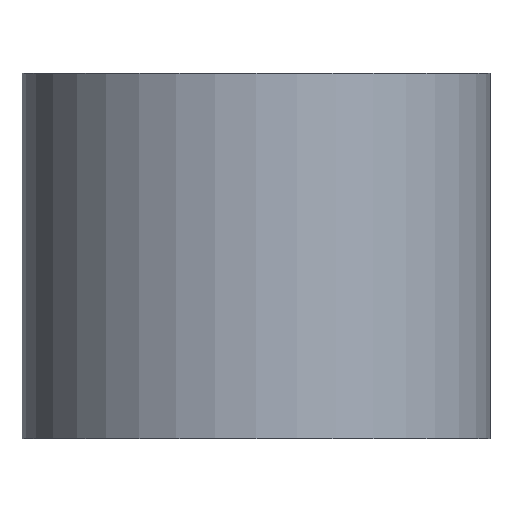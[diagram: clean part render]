
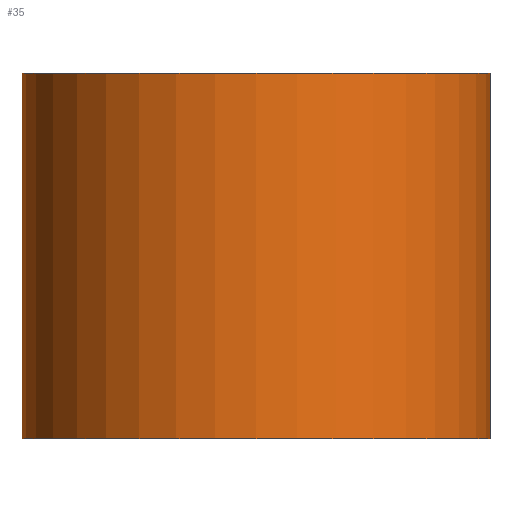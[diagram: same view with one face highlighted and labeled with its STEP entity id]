
A CAD part, front view. The second image highlights one B-rep face of the part: STEP entity #35.
In plain terms, the highlighted cylindrical face has radius 3.2 mm (diameter 6.4 mm), a full revolution.
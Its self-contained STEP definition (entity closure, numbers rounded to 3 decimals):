
#35 = ADVANCED_FACE('',(#36),#49,.T.);
#36 = FACE_BOUND('',#37,.T.);
#37 = EDGE_LOOP('',(#38,#72,#95,#122));
#38 = ORIENTED_EDGE('',*,*,#39,.F.);
#39 = EDGE_CURVE('',#40,#40,#42,.T.);
#40 = VERTEX_POINT('',#41);
#41 = CARTESIAN_POINT('',(3.2,0.,2.5));
#42 = SURFACE_CURVE('',#43,(#48,#60),.PCURVE_S1.);
#43 = CIRCLE('',#44,3.2);
#44 = AXIS2_PLACEMENT_3D('',#45,#46,#47);
#45 = CARTESIAN_POINT('',(0.,0.,2.5));
#46 = DIRECTION('',(0.,0.,1.));
#47 = DIRECTION('',(1.,0.,-0.));
#48 = PCURVE('',#49,#54);
#49 = CYLINDRICAL_SURFACE('',#50,3.2);
#50 = AXIS2_PLACEMENT_3D('',#51,#52,#53);
#51 = CARTESIAN_POINT('',(0.,0.,-2.5));
#52 = DIRECTION('',(0.,0.,1.));
#53 = DIRECTION('',(1.,0.,-0.));
#54 = DEFINITIONAL_REPRESENTATION('',(#55),#59);
#55 = LINE('',#56,#57);
#56 = CARTESIAN_POINT('',(0.,5.));
#57 = VECTOR('',#58,1.);
#58 = DIRECTION('',(1.,0.));
#59 = ( GEOMETRIC_REPRESENTATION_CONTEXT(2) 
PARAMETRIC_REPRESENTATION_CONTEXT() REPRESENTATION_CONTEXT('2D SPACE',''
  ) );
#60 = PCURVE('',#61,#66);
#61 = PLANE('',#62);
#62 = AXIS2_PLACEMENT_3D('',#63,#64,#65);
#63 = CARTESIAN_POINT('',(0.,0.,2.5));
#64 = DIRECTION('',(0.,0.,1.));
#65 = DIRECTION('',(1.,0.,-0.));
#66 = DEFINITIONAL_REPRESENTATION('',(#67),#71);
#67 = CIRCLE('',#68,3.2);
#68 = AXIS2_PLACEMENT_2D('',#69,#70);
#69 = CARTESIAN_POINT('',(0.,0.));
#70 = DIRECTION('',(1.,0.));
#71 = ( GEOMETRIC_REPRESENTATION_CONTEXT(2) 
PARAMETRIC_REPRESENTATION_CONTEXT() REPRESENTATION_CONTEXT('2D SPACE',''
  ) );
#72 = ORIENTED_EDGE('',*,*,#73,.F.);
#73 = EDGE_CURVE('',#74,#40,#76,.T.);
#74 = VERTEX_POINT('',#75);
#75 = CARTESIAN_POINT('',(3.2,0.,-2.5));
#76 = SEAM_CURVE('',#77,(#81,#88),.PCURVE_S1.);
#77 = LINE('',#78,#79);
#78 = CARTESIAN_POINT('',(3.2,0.,-2.5));
#79 = VECTOR('',#80,1.);
#80 = DIRECTION('',(0.,0.,1.));
#81 = PCURVE('',#49,#82);
#82 = DEFINITIONAL_REPRESENTATION('',(#83),#87);
#83 = LINE('',#84,#85);
#84 = CARTESIAN_POINT('',(6.283,-0.));
#85 = VECTOR('',#86,1.);
#86 = DIRECTION('',(0.,1.));
#87 = ( GEOMETRIC_REPRESENTATION_CONTEXT(2) 
PARAMETRIC_REPRESENTATION_CONTEXT() REPRESENTATION_CONTEXT('2D SPACE',''
  ) );
#88 = PCURVE('',#49,#89);
#89 = DEFINITIONAL_REPRESENTATION('',(#90),#94);
#90 = LINE('',#91,#92);
#91 = CARTESIAN_POINT('',(0.,-0.));
#92 = VECTOR('',#93,1.);
#93 = DIRECTION('',(0.,1.));
#94 = ( GEOMETRIC_REPRESENTATION_CONTEXT(2) 
PARAMETRIC_REPRESENTATION_CONTEXT() REPRESENTATION_CONTEXT('2D SPACE',''
  ) );
#95 = ORIENTED_EDGE('',*,*,#96,.T.);
#96 = EDGE_CURVE('',#74,#74,#97,.T.);
#97 = SURFACE_CURVE('',#98,(#103,#110),.PCURVE_S1.);
#98 = CIRCLE('',#99,3.2);
#99 = AXIS2_PLACEMENT_3D('',#100,#101,#102);
#100 = CARTESIAN_POINT('',(0.,0.,-2.5));
#101 = DIRECTION('',(0.,0.,1.));
#102 = DIRECTION('',(1.,0.,-0.));
#103 = PCURVE('',#49,#104);
#104 = DEFINITIONAL_REPRESENTATION('',(#105),#109);
#105 = LINE('',#106,#107);
#106 = CARTESIAN_POINT('',(0.,0.));
#107 = VECTOR('',#108,1.);
#108 = DIRECTION('',(1.,0.));
#109 = ( GEOMETRIC_REPRESENTATION_CONTEXT(2) 
PARAMETRIC_REPRESENTATION_CONTEXT() REPRESENTATION_CONTEXT('2D SPACE',''
  ) );
#110 = PCURVE('',#111,#116);
#111 = PLANE('',#112);
#112 = AXIS2_PLACEMENT_3D('',#113,#114,#115);
#113 = CARTESIAN_POINT('',(0.,0.,-2.5));
#114 = DIRECTION('',(0.,0.,1.));
#115 = DIRECTION('',(1.,0.,-0.));
#116 = DEFINITIONAL_REPRESENTATION('',(#117),#121);
#117 = CIRCLE('',#118,3.2);
#118 = AXIS2_PLACEMENT_2D('',#119,#120);
#119 = CARTESIAN_POINT('',(0.,0.));
#120 = DIRECTION('',(1.,0.));
#121 = ( GEOMETRIC_REPRESENTATION_CONTEXT(2) 
PARAMETRIC_REPRESENTATION_CONTEXT() REPRESENTATION_CONTEXT('2D SPACE',''
  ) );
#122 = ORIENTED_EDGE('',*,*,#73,.T.);
